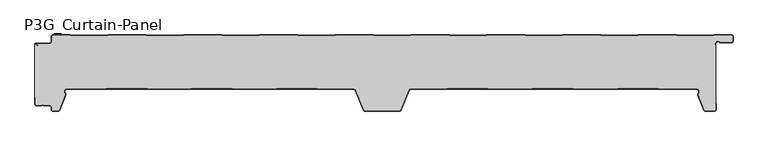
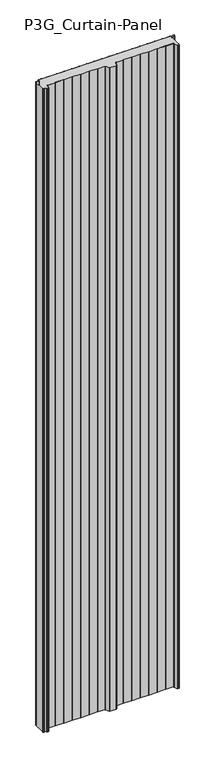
"""IFC4 building model written with IfcOpenShell, lengths in millimetres: plate geometry, P3G_Curtain-Panel : ACH_P3G_3-Rib-Roof-Panel_80M."""

import ifcopenshell
import ifcopenshell.guid

model = None  # the IFC model being written
_history = None  # IfcOwnerHistory: only IFC2X3 demands one
_inside = {}  # id of a spatial element -> (the spatial element, [elements in it])
_under = {}  # id of a project, library or spatial element -> (it, [spatial elements below it])
_declared = {}  # id of a project -> (the project, [libraries it declares])
_typed = {}  # id of a type object -> (the type object, [elements of that type])
_made_of = {}  # id of a material, layer set ... -> (it, [elements and type objects made of it])


def new_model(schema):
    """Start an empty IFC model of exactly this schema.

    Asked for "IFC4X3", IfcOpenShell would pick the latest addendum, in which some entities
    have other attributes; the version numbers below select the first issue.
    IFC2X3 requires an IfcOwnerHistory on every rooted entity: one is made here for all.
    """
    global model, _history
    if schema == "IFC4X3":
        model = ifcopenshell.file(schema_version=(4, 3, 0, 0))
    else:
        model = ifcopenshell.file(schema=schema)
    _inside.clear()
    _under.clear()
    _declared.clear()
    _typed.clear()
    _made_of.clear()
    _history = None
    if model.schema == "IFC2X3":
        org = make("IfcOrganization", Name="unknown")
        user = make(
            "IfcPersonAndOrganization",
            ThePerson=make("IfcPerson", FamilyName="unknown"),
            TheOrganization=org,
        )
        app = make(
            "IfcApplication",
            ApplicationDeveloper=org,
            Version="unknown",
            ApplicationFullName="unknown",
            ApplicationIdentifier="unknown",
        )
        _history = make(
            "IfcOwnerHistory",
            OwningUser=user,
            OwningApplication=app,
            ChangeAction="ADDED",
            CreationDate=0,
        )
    return model


def make(cls, **values):
    """One entity of the class cls with the attributes given. An attribute that is None is left unset."""
    return model.create_entity(
        cls, **{name: value for name, value in values.items() if value is not None}
    )


def rooted(cls, **values):
    """An entity with a GlobalId (a new one), such as an element, a storey or a relation."""
    return make(cls, GlobalId=ifcopenshell.guid.new(), OwnerHistory=_history, **values)


def si_unit(unit_type, name, prefix=None):
    """IfcSIUnit, for example si_unit("LENGTHUNIT", "METRE", prefix="MILLI")."""
    return make("IfcSIUnit", UnitType=unit_type, Prefix=prefix, Name=name)


def assignment(units):
    """IfcUnitAssignment: the units of a project."""
    return None if units is None else make("IfcUnitAssignment", Units=units)


def point(xyz):
    """IfcCartesianPoint."""
    return None if xyz is None else make("IfcCartesianPoint", Coordinates=xyz)


def direction(xyz):
    """IfcDirection."""
    return None if xyz is None else make("IfcDirection", DirectionRatios=xyz)


def frame(location, z_axis=None, x_axis=None):
    """IfcAxis2Placement3D, a coordinate frame: its origin and axes. An axis left out is left unset."""
    return make(
        "IfcAxis2Placement3D",
        Location=point(location),
        Axis=direction(z_axis),
        RefDirection=direction(x_axis),
    )


def frame_2d(location, x_axis=None):
    """IfcAxis2Placement2D, a coordinate frame in the plane: its origin and x axis."""
    return make(
        "IfcAxis2Placement2D", Location=point(location), RefDirection=direction(x_axis)
    )


def origin():
    """The frame at (0, 0, 0) with its axes left unset."""
    return frame((0.0, 0.0, 0.0))


def origin_with_axes():
    """The frame at (0, 0, 0) with the z axis (0, 0, 1) and the x axis (1, 0, 0) written out."""
    return frame((0.0, 0.0, 0.0), z_axis=(0.0, 0.0, 1.0), x_axis=(1.0, 0.0, 0.0))


def place(relative_to, where):
    """IfcLocalPlacement: puts the frame where relative to a parent placement (None: the world)."""
    return make(
        "IfcLocalPlacement", PlacementRelTo=relative_to, RelativePlacement=where
    )


def context(
    kind, dimensions, precision=None, world=None, true_north=None, identifier=None
):
    """IfcGeometricRepresentationContext, for example the 3D "Model" context."""
    return make(
        "IfcGeometricRepresentationContext",
        ContextIdentifier=identifier,
        ContextType=kind,
        CoordinateSpaceDimension=dimensions,
        Precision=precision,
        WorldCoordinateSystem=world,
        TrueNorth=true_north,
    )


def project(units=None, contexts=None):
    """IfcProject with its units and contexts."""
    return rooted(
        "IfcProject",
        Name="project",
        RepresentationContexts=contexts,
        UnitsInContext=assignment(units),
    )


def spatial(cls, under=None, at=None, **own):
    """A site, building, storey or space (cls), placed at a placement, below another one or the project."""
    s = rooted(cls, ObjectPlacement=at, **own)
    if under is not None:
        _under.setdefault(under.id(), (under, []))[1].append(s)
    return s


def polyline(points):
    """IfcPolyline through the points."""
    return make("IfcPolyline", Points=[point(p) for p in points])


def circle_curve(where, radius):
    """IfcCircle in the frame where."""
    return make("IfcCircle", Position=where, Radius=radius)


def trimmed(basis, trim1, trim2, sense, master):
    """IfcTrimmedCurve: the piece of a basis curve between two trims."""
    return make(
        "IfcTrimmedCurve",
        BasisCurve=basis,
        Trim1=trim1,
        Trim2=trim2,
        SenseAgreement=sense,
        MasterRepresentation=master,
    )


def segment(curve, same_sense, transition):
    """IfcCompositeCurveSegment."""
    return make(
        "IfcCompositeCurveSegment",
        Transition=transition,
        SameSense=same_sense,
        ParentCurve=curve,
    )


def composite_curve(segments, self_intersect=None):
    """IfcCompositeCurve: segments joined end to end."""
    return make("IfcCompositeCurve", Segments=segments, SelfIntersect=self_intersect)


def outline(outer, holes=None, kind="AREA"):
    """IfcArbitraryClosedProfileDef: a profile drawn as a closed curve; with holes, ...WithVoids."""
    if holes is None:
        return make("IfcArbitraryClosedProfileDef", ProfileType=kind, OuterCurve=outer)
    return make(
        "IfcArbitraryProfileDefWithVoids",
        ProfileType=kind,
        OuterCurve=outer,
        InnerCurves=holes,
    )


def extrude(swept, where, along, depth):
    """IfcExtrudedAreaSolid: the profile swept, set in the frame where, extruded along a direction by depth."""
    return make(
        "IfcExtrudedAreaSolid",
        SweptArea=swept,
        Position=where,
        ExtrudedDirection=direction(along),
        Depth=depth,
    )


def shape(context_of_items, identifier, shape_type, items):
    """IfcShapeRepresentation: the items that make up one representation, for example the "Body"."""
    return make(
        "IfcShapeRepresentation",
        ContextOfItems=context_of_items,
        RepresentationIdentifier=identifier,
        RepresentationType=shape_type,
        Items=items,
    )


def source(mapping_origin, context_of_items, identifier, shape_type, items):
    """IfcRepresentationMap: a shape defined once, which mapped items show again and again."""
    return make(
        "IfcRepresentationMap",
        MappingOrigin=mapping_origin,
        MappedRepresentation=shape(context_of_items, identifier, shape_type, items),
    )


def transform(
    local_origin,
    x_axis=None,
    y_axis=None,
    z_axis=None,
    scale=None,
    scale2=None,
    scale3=None,
    uniform=True,
):
    """IfcCartesianTransformationOperator3D, or its non-uniform kind. x_axis, y_axis, z_axis: its Axis1, 2, 3."""
    if uniform:
        return make(
            "IfcCartesianTransformationOperator3D",
            Axis1=direction(x_axis),
            Axis2=direction(y_axis),
            LocalOrigin=point(local_origin),
            Scale=scale,
            Axis3=direction(z_axis),
        )
    return make(
        "IfcCartesianTransformationOperator3DnonUniform",
        Axis1=direction(x_axis),
        Axis2=direction(y_axis),
        LocalOrigin=point(local_origin),
        Scale=scale,
        Axis3=direction(z_axis),
        Scale2=scale2,
        Scale3=scale3,
    )


def mapped(mapping_source, mapping_target):
    """IfcMappedItem: shows the shape of a source again, moved by a transform."""
    return make(
        "IfcMappedItem", MappingSource=mapping_source, MappingTarget=mapping_target
    )


def made_of(thing, what):
    """Note that an element or type object is made of a material, layer set ...; save() writes the relation."""
    if what is not None:
        _made_of.setdefault(what.id(), (what, []))[1].append(thing)
    return thing


def element(
    cls,
    number,
    at=None,
    inside=None,
    cuts=None,
    type_object=None,
    material=None,
    context=None,
    identifier="Body",
    shape_type=None,
    held_by="IfcProductDefinitionShape",
    body=None,
    shapes=None,
    **own,
):
    """One element of the class cls, such as IfcWall. Its Tag is "e" and its number.

    at: its placement. inside: the storey or other place that contains it. cuts: it is an
    opening in that element (IfcRelVoidsElement). A single representation is given by context,
    identifier, shape_type and body (its items); several are given by shapes. held_by: the class
    of the entity that holds the representations. save() writes the other relations.
    """
    e = rooted(cls, Tag="e%d" % number, ObjectPlacement=at, **own)
    if body is not None:
        shapes = [shape(context, identifier, shape_type, body)]
    if shapes is not None:
        e.Representation = make(held_by, Representations=shapes)
    if inside is not None:
        _inside.setdefault(inside.id(), (inside, []))[1].append(e)
    if cuts is not None:
        rooted(
            "IfcRelVoidsElement", RelatingBuildingElement=cuts, RelatedOpeningElement=e
        )
    if type_object is not None:
        _typed.setdefault(type_object.id(), (type_object, []))[1].append(e)
    return made_of(e, material)


def aggregate(whole, parts):
    """IfcRelAggregates: a whole, such as a stair, and the parts it consists of."""
    return rooted("IfcRelAggregates", RelatingObject=whole, RelatedObjects=parts)


def save(model, path):
    """Write the relations noted so far, then the file.

    IfcRelAggregates (storeys below a building ...), IfcRelContainedInSpatialStructure (elements
    in a storey), IfcRelDefinesByType, IfcRelAssociatesMaterial and IfcRelDeclares: one each for
    every whole, place, type object, material and project.
    """
    for whole, parts in _under.values():
        aggregate(whole, parts)
    for where, things in _inside.values():
        rooted(
            "IfcRelContainedInSpatialStructure",
            RelatedElements=things,
            RelatingStructure=where,
        )
    for kind, things in _typed.values():
        rooted("IfcRelDefinesByType", RelatedObjects=things, RelatingType=kind)
    for what, things in _made_of.values():
        rooted("IfcRelAssociatesMaterial", RelatedObjects=things, RelatingMaterial=what)
    for by, libraries in _declared.values():
        rooted("IfcRelDeclares", RelatingContext=by, RelatedDefinitions=libraries)
    model.write(path)


def p3g_curtain_panel_8e46e326(model_context):
    return source(origin(), model_context, "Body", "SweptSolid", [
        extrude(outline(composite_curve([segment(polyline([(-499.496875, -13.8660254), (-495.496875, -16.1754265), (-495.096875, -15.4826062), (-498.1272598, -13.7330127)]), True, "CONTINUOUS"), segment(trimmed(circle_curve(frame_2d((-497.8772598, -13.3)), 0.5), [point((-498.1272598, -13.7330127))], [point((-497.8772598, -12.8))], False, "CARTESIAN"), True, "CONTINUOUS"), segment(polyline([(-497.8772598, -12.8), (-477.996875, -12.8)]), True, "CONTINUOUS"), segment(trimmed(circle_curve(frame_2d((-477.996875, -10.0)), 2.8), [point((-477.996875, -12.8))], [point((-475.196875, -10.0))], True, "CARTESIAN"), True, "CONTINUOUS"), segment(polyline([(-475.196875, -10.0), (-475.196875, -2.5)]), True, "CONTINUOUS"), segment(trimmed(circle_curve(frame_2d((-473.496875, -2.5)), 1.7), [point((-475.196875, -2.5))], [point((-473.496875, -0.8))], False, "CARTESIAN"), True, "CONTINUOUS"), segment(polyline([(-473.496875, -0.8), (-448.4313592, -0.8), (-447.4338592, -1.4), (-393.4298908, -1.4), (-392.4323908, -0.8), (-337.3213592, -0.8), (-336.3238592, -1.4), (-282.3198908, -1.4), (-281.3223908, -0.8), (-226.2113592, -0.8), (-225.2138592, -1.4), (-171.2098908, -1.4), (-170.2123908, -0.8), (-115.1013592, -0.8), (-114.1038592, -1.4), (-60.0998908, -1.4), (-59.1023908, -0.8), (-3.9913592, -0.8), (-2.9938592, -1.4), (51.0101092, -1.4), (52.0076092, -0.8), (107.1186408, -0.8), (108.1161408, -1.4), (162.1201092, -1.4), (163.1176092, -0.8), (218.2286408, -0.8), (219.2261408, -1.4), (273.2301092, -1.4), (274.2276092, -0.8), (329.3386408, -0.8), (330.3361408, -1.4), (384.3401092, -1.4), (385.3376092, -0.8), (440.4486408, -0.8), (441.4461408, -1.4), (495.4501092, -1.4), (496.4476092, -0.8), (521.503125, -0.8)]), True, "CONTINUOUS"), segment(trimmed(circle_curve(frame_2d((521.503125, -2.5)), 1.7), [point((521.503125, -0.8))], [point((523.203125, -2.5))], False, "CARTESIAN"), True, "CONTINUOUS"), segment(polyline([(523.203125, -2.5), (523.203125, -9.0)]), True, "CONTINUOUS"), segment(trimmed(circle_curve(frame_2d((521.503125, -9.0)), 1.7), [point((523.203125, -9.0))], [point((521.503125, -10.7))], False, "CARTESIAN"), True, "CONTINUOUS"), segment(polyline([(521.503125, -10.7), (505.8568186, -10.7)]), True, "CONTINUOUS"), segment(trimmed(circle_curve(frame_2d((505.8568186, -9.0)), 1.7), [point((505.8568186, -10.7))], [point((504.7323743, -10.275))], False, "CARTESIAN"), True, "CONTINUOUS"), segment(trimmed(circle_curve(frame_2d((501.8881916, -13.5)), 4.3), [point((504.7323743, -10.275))], [point((497.8475134, -12.0293134))], True, "CARTESIAN"), True, "CONTINUOUS"), segment(polyline([(497.8475134, -12.0293134), (497.1006025, -14.0814342)]), True, "CONTINUOUS"), segment(trimmed(circle_curve(frame_2d((495.503125, -13.5)), 1.7), [point((497.1006025, -14.0814342))], [point((495.503125, -15.2))], False, "CARTESIAN"), True, "CONTINUOUS"), segment(polyline([(495.503125, -15.2), (490.503125, -15.2), (490.503125, -16.0), (495.503125, -16.0)]), True, "CONTINUOUS"), segment(trimmed(circle_curve(frame_2d((495.503125, -13.5)), 2.5), [point((495.503125, -16.0))], [point((497.8523566, -14.3550504))], True, "CARTESIAN"), True, "CONTINUOUS"), segment(polyline([(497.8523566, -14.3550504), (498.203125, -13.391322), (498.203125, -109.5)]), True, "CONTINUOUS"), segment(trimmed(circle_curve(frame_2d((496.503125, -109.5)), 1.7), [point((498.203125, -109.5))], [point((496.503125, -111.2))], False, "CARTESIAN"), True, "CONTINUOUS"), segment(polyline([(496.503125, -111.2), (483.6093963, -111.2)]), True, "CONTINUOUS"), segment(trimmed(circle_curve(frame_2d((483.6093963, -109.5)), 1.7), [point((483.6093963, -111.2))], [point((482.0331837, -110.1368312))], False, "CARTESIAN"), True, "CONTINUOUS"), segment(polyline([(482.0331837, -110.1368312), (473.0241766, -87.838756)]), True, "CONTINUOUS"), segment(trimmed(circle_curve(frame_2d((474.6003891, -87.2019248)), 1.7), [point((473.0241766, -87.838756))], [point((473.4430606, -85.9566976))], False, "CARTESIAN"), True, "CONTINUOUS"), segment(trimmed(circle_curve(frame_2d((470.7880129, -83.1)), 3.9), [point((473.4430606, -85.9566976))], [point((470.7880129, -79.2))], True, "CARTESIAN"), True, "CONTINUOUS"), segment(polyline([(470.7880129, -79.2), (415.2251881, -79.2), (414.2276881, -78.6), (354.7785619, -78.6), (353.7810619, -79.2), (290.2252392, -79.2), (289.2266715, -78.6), (229.7795785, -78.6), (228.7810108, -79.2), (165.225925, -79.2), (164.2273573, -78.6), (104.7788927, -78.6), (103.780325, -79.2), (50.7367047, -79.2)]), True, "CONTINUOUS"), segment(trimmed(circle_curve(frame_2d((50.7367047, -82.0)), 2.8), [point((50.7367047, -79.2))], [point((48.1405899, -80.9511015))], True, "CARTESIAN"), True, "CONTINUOUS"), segment(polyline([(48.1405899, -80.9511015), (36.4751274, -109.8241345)]), True, "CONTINUOUS"), segment(trimmed(circle_curve(frame_2d((34.4353229, -109.0)), 2.2), [point((36.4751274, -109.8241345))], [point((34.4353229, -111.2))], False, "CARTESIAN"), True, "CONTINUOUS"), segment(polyline([(34.4353229, -111.2), (-15.5090729, -111.2)]), True, "CONTINUOUS"), segment(trimmed(circle_curve(frame_2d((-15.5090729, -109.0)), 2.2), [point((-15.5090729, -111.2))], [point((-17.5488774, -109.8241345))], False, "CARTESIAN"), True, "CONTINUOUS"), segment(polyline([(-17.5488774, -109.8241345), (-29.2143399, -80.9511015)]), True, "CONTINUOUS"), segment(trimmed(circle_curve(frame_2d((-31.8104547, -82.0)), 2.8), [point((-29.2143399, -80.9511015))], [point((-31.8104547, -79.2))], True, "CARTESIAN"), True, "CONTINUOUS"), segment(polyline([(-31.8104547, -79.2), (-84.8548119, -79.2), (-85.8523119, -78.6), (-145.3014381, -78.6), (-146.2989381, -79.2), (-209.8548119, -79.2), (-210.8523119, -78.6), (-270.3014381, -78.6), (-271.2989381, -79.2), (-334.8548119, -79.2), (-335.8523119, -78.6), (-395.3011073, -78.6), (-396.299675, -79.2), (-453.2387629, -79.2)]), True, "CONTINUOUS"), segment(trimmed(circle_curve(frame_2d((-453.2387629, -83.1)), 3.9), [point((-453.2387629, -79.2))], [point((-455.8938106, -85.9566976))], True, "CARTESIAN"), True, "CONTINUOUS"), segment(trimmed(circle_curve(frame_2d((-457.0511391, -87.2019248)), 1.7), [point((-455.8938106, -85.9566976))], [point((-455.4749266, -87.838756))], False, "CARTESIAN"), True, "CONTINUOUS"), segment(polyline([(-455.4749266, -87.838756), (-464.4839337, -110.1368312)]), True, "CONTINUOUS"), segment(trimmed(circle_curve(frame_2d((-466.0601463, -109.5)), 1.7), [point((-464.4839337, -110.1368312))], [point((-466.0601463, -111.2))], False, "CARTESIAN"), True, "CONTINUOUS"), segment(polyline([(-466.0601463, -111.2), (-473.496875, -111.2)]), True, "CONTINUOUS"), segment(trimmed(circle_curve(frame_2d((-473.496875, -109.5)), 1.7), [point((-473.496875, -111.2))], [point((-475.196875, -109.5))], False, "CARTESIAN"), True, "CONTINUOUS"), segment(polyline([(-475.196875, -109.5), (-475.196875, -106.0)]), True, "CONTINUOUS"), segment(trimmed(circle_curve(frame_2d((-477.996875, -106.0)), 2.8), [point((-475.196875, -106.0))], [point((-477.996875, -103.2))], True, "CARTESIAN"), True, "CONTINUOUS"), segment(polyline([(-477.996875, -103.2), (-486.5995084, -103.2)]), True, "CONTINUOUS"), segment(trimmed(circle_curve(frame_2d((-488.496875, -104.5)), 2.3), [point((-486.5995084, -103.2))], [point((-490.3942416, -103.2))], True, "CARTESIAN"), True, "CONTINUOUS"), segment(polyline([(-490.3942416, -103.2), (-497.496875, -103.2)]), True, "CONTINUOUS"), segment(trimmed(circle_curve(frame_2d((-497.496875, -101.5)), 1.7), [point((-497.496875, -103.2))], [point((-499.196875, -101.5))], False, "CARTESIAN"), True, "CONTINUOUS"), segment(polyline([(-499.196875, -101.5), (-499.196875, -91.18), (-499.996875, -91.18), (-499.996875, -13.0)]), True, "CONTINUOUS"), segment(trimmed(circle_curve(frame_2d((-498.996875, -13.0)), 1.0), [point((-499.996875, -13.0))], [point((-499.496875, -13.8660254))], True, "CARTESIAN"), True, "CONTINUOUS")], self_intersect=False)), origin_with_axes(), (0.0, 0.0, 1.0), 5000.0),
        extrude(outline(composite_curve([segment(trimmed(circle_curve(frame_2d((-478.0, -10.0)), 2.0), [point((-478.0, -12.0))], [point((-476.0, -10.0))], True, "CARTESIAN"), True, "CONTINUOUS"), segment(polyline([(-476.0, -10.0), (-476.0, -2.5)]), True, "CONTINUOUS"), segment(trimmed(circle_curve(frame_2d((-473.5, -2.5)), 2.5), [point((-476.0, -2.5))], [point((-473.5, 0.0))], False, "CARTESIAN"), True, "CONTINUOUS"), segment(polyline([(-473.5, 0.0), (-448.2124211, 0.0), (-447.2149211, -0.6), (-393.6550789, -0.6), (-392.6575789, 0.0), (-337.1024211, 0.0), (-336.1049211, -0.6), (-282.5450789, -0.6), (-281.5475789, 0.0), (-225.9924211, 0.0), (-224.9949211, -0.6), (-171.4350789, -0.6), (-170.4375789, 0.0), (-114.8824211, 0.0), (-113.8849211, -0.6), (-60.3250789, -0.6), (-59.3275789, 0.0), (-3.7724211, 0.0), (-2.7749211, -0.6), (50.7849211, -0.6), (51.7824211, 0.0), (107.3375789, 0.0), (108.3350789, -0.6), (161.8949211, -0.6), (162.8924211, 0.0), (218.4475789, 0.0), (219.4450789, -0.6), (273.0049211, -0.6), (274.0024211, 0.0), (329.5575789, 0.0), (330.5550789, -0.6), (384.1149211, -0.6), (385.1124211, 0.0), (440.6675789, 0.0), (441.6650789, -0.6), (495.2249211, -0.6), (496.2224211, 0.0), (521.5, 0.0)]), True, "CONTINUOUS"), segment(trimmed(circle_curve(frame_2d((521.5, -2.5)), 2.5), [point((521.5, 0.0))], [point((524.0, -2.5))], False, "CARTESIAN"), True, "CONTINUOUS"), segment(polyline([(524.0, -2.5), (524.0, -9.0)]), True, "CONTINUOUS"), segment(trimmed(circle_curve(frame_2d((521.5, -9.0)), 2.5), [point((524.0, -9.0))], [point((521.5, -11.5))], False, "CARTESIAN"), True, "CONTINUOUS"), segment(polyline([(521.5, -11.5), (505.8536936, -11.5)]), True, "CONTINUOUS"), segment(trimmed(circle_curve(frame_2d((505.8536936, -9.0)), 2.5), [point((505.8536936, -11.5))], [point((504.200099, -10.875))], False, "CARTESIAN"), True, "CONTINUOUS"), segment(trimmed(circle_curve(frame_2d((501.8850666, -13.5)), 3.5), [point((504.200099, -10.875))], [point((498.5961425, -12.3029295))], True, "CARTESIAN"), True, "CONTINUOUS"), segment(polyline([(498.5961425, -12.3029295), (497.8492316, -14.3550504)]), True, "CONTINUOUS"), segment(trimmed(circle_curve(frame_2d((495.5, -13.5)), 2.5), [point((497.8492316, -14.3550504))], [point((495.5, -16.0))], False, "CARTESIAN"), True, "CONTINUOUS"), segment(polyline([(495.5, -16.0), (490.5, -16.0), (490.5, -15.2), (495.5, -15.2)]), True, "CONTINUOUS"), segment(trimmed(circle_curve(frame_2d((495.5, -13.5)), 1.7), [point((495.5, -15.2))], [point((497.0974775, -14.0814342))], True, "CARTESIAN"), True, "CONTINUOUS"), segment(polyline([(497.0974775, -14.0814342), (497.8443884, -12.0293134)]), True, "CONTINUOUS"), segment(trimmed(circle_curve(frame_2d((501.8850666, -13.5)), 4.3), [point((497.8443884, -12.0293134))], [point((504.7292493, -10.275))], False, "CARTESIAN"), True, "CONTINUOUS"), segment(trimmed(circle_curve(frame_2d((505.8536936, -9.0)), 1.7), [point((504.7292493, -10.275))], [point((505.8536936, -10.7))], True, "CARTESIAN"), True, "CONTINUOUS"), segment(polyline([(505.8536936, -10.7), (521.5, -10.7)]), True, "CONTINUOUS"), segment(trimmed(circle_curve(frame_2d((521.5, -9.0)), 1.7), [point((521.5, -10.7))], [point((523.2, -9.0))], True, "CARTESIAN"), True, "CONTINUOUS"), segment(polyline([(523.2, -9.0), (523.2, -2.5)]), True, "CONTINUOUS"), segment(trimmed(circle_curve(frame_2d((521.5, -2.5)), 1.7), [point((523.2, -2.5))], [point((521.5, -0.8))], True, "CARTESIAN"), True, "CONTINUOUS"), segment(polyline([(521.5, -0.8), (496.4444842, -0.8), (495.4469842, -1.4), (441.4430158, -1.4), (440.4455158, -0.8), (385.3344842, -0.8), (384.3369842, -1.4), (330.3330158, -1.4), (329.3355158, -0.8), (274.2244842, -0.8), (273.2269842, -1.4), (219.2230158, -1.4), (218.2255158, -0.8), (163.1144842, -0.8), (162.1169842, -1.4), (108.1130158, -1.4), (107.1155158, -0.8), (52.0044842, -0.8), (51.0069842, -1.4), (-2.9969842, -1.4), (-3.9944842, -0.8), (-59.1055158, -0.8), (-60.1030158, -1.4), (-114.1069842, -1.4), (-115.1044842, -0.8), (-170.2155158, -0.8), (-171.2130158, -1.4), (-225.2169842, -1.4), (-226.2144842, -0.8), (-281.3255158, -0.8), (-282.3230158, -1.4), (-336.3269842, -1.4), (-337.3244842, -0.8), (-392.4355158, -0.8), (-393.4330158, -1.4), (-447.4369842, -1.4), (-448.4344842, -0.8), (-473.5, -0.8)]), True, "CONTINUOUS"), segment(trimmed(circle_curve(frame_2d((-473.5, -2.5)), 1.7), [point((-473.5, -0.8))], [point((-475.2, -2.5))], True, "CARTESIAN"), True, "CONTINUOUS"), segment(polyline([(-475.2, -2.5), (-475.2, -10.0)]), True, "CONTINUOUS"), segment(trimmed(circle_curve(frame_2d((-478.0, -10.0)), 2.8), [point((-475.2, -10.0))], [point((-478.0, -12.8))], False, "CARTESIAN"), True, "CONTINUOUS"), segment(polyline([(-478.0, -12.8), (-497.8803848, -12.8)]), True, "CONTINUOUS"), segment(trimmed(circle_curve(frame_2d((-497.8803848, -13.3)), 0.5), [point((-497.8803848, -12.8))], [point((-498.1303848, -13.7330127))], True, "CARTESIAN"), True, "CONTINUOUS"), segment(polyline([(-498.1303848, -13.7330127), (-495.1, -15.4826062), (-495.5, -16.1754265), (-499.5, -13.8660254)]), True, "CONTINUOUS"), segment(trimmed(circle_curve(frame_2d((-499.0, -13.0)), 1.0), [point((-499.5, -13.8660254))], [point((-499.0, -12.0))], False, "CARTESIAN"), True, "CONTINUOUS"), segment(polyline([(-499.0, -12.0), (-478.0, -12.0)]), True, "CONTINUOUS")], self_intersect=False)), origin_with_axes(), (0.0, 0.0, 1.0), 5000.0),
        extrude(outline(composite_curve([segment(polyline([(-500.0, -101.5), (-500.0, -91.18), (-499.2, -91.18), (-499.2, -101.5)]), True, "CONTINUOUS"), segment(trimmed(circle_curve(frame_2d((-497.5, -101.5)), 1.7), [point((-499.2, -101.5))], [point((-497.5, -103.2))], True, "CARTESIAN"), True, "CONTINUOUS"), segment(polyline([(-497.5, -103.2), (-490.3973666, -103.2)]), True, "CONTINUOUS"), segment(trimmed(circle_curve(frame_2d((-488.5, -104.5)), 2.3), [point((-490.3973666, -103.2))], [point((-486.6026334, -103.2))], False, "CARTESIAN"), True, "CONTINUOUS"), segment(polyline([(-486.6026334, -103.2), (-478.0, -103.2)]), True, "CONTINUOUS"), segment(trimmed(circle_curve(frame_2d((-478.0, -106.0)), 2.8), [point((-478.0, -103.2))], [point((-475.2, -106.0))], False, "CARTESIAN"), True, "CONTINUOUS"), segment(polyline([(-475.2, -106.0), (-475.2, -109.5)]), True, "CONTINUOUS"), segment(trimmed(circle_curve(frame_2d((-473.5, -109.5)), 1.7), [point((-475.2, -109.5))], [point((-473.5, -111.2))], True, "CARTESIAN"), True, "CONTINUOUS"), segment(polyline([(-473.5, -111.2), (-466.0632713, -111.2)]), True, "CONTINUOUS"), segment(trimmed(circle_curve(frame_2d((-466.0632713, -109.5)), 1.7), [point((-466.0632713, -111.2))], [point((-464.4870587, -110.1368312))], True, "CARTESIAN"), True, "CONTINUOUS"), segment(polyline([(-464.4870587, -110.1368312), (-455.4780516, -87.838756)]), True, "CONTINUOUS"), segment(trimmed(circle_curve(frame_2d((-457.0542641, -87.2019248)), 1.7), [point((-455.4780516, -87.838756))], [point((-455.8969356, -85.9566976))], True, "CARTESIAN"), True, "CONTINUOUS"), segment(trimmed(circle_curve(frame_2d((-453.2418879, -83.1)), 3.9), [point((-455.8969356, -85.9566976))], [point((-453.2418879, -79.2))], False, "CARTESIAN"), True, "CONTINUOUS"), segment(polyline([(-453.2418879, -79.2), (-396.3028, -79.2), (-395.3042323, -78.6), (-335.8554369, -78.6), (-334.8579369, -79.2), (-271.3020631, -79.2), (-270.3045631, -78.6), (-210.8554369, -78.6), (-209.8579369, -79.2), (-146.3020631, -79.2), (-145.3045631, -78.6), (-85.8554369, -78.6), (-84.8579369, -79.2), (-31.8135797, -79.2)]), True, "CONTINUOUS"), segment(trimmed(circle_curve(frame_2d((-31.8135797, -82.0)), 2.8), [point((-31.8135797, -79.2))], [point((-29.2174649, -80.9511015))], False, "CARTESIAN"), True, "CONTINUOUS"), segment(polyline([(-29.2174649, -80.9511015), (-17.5520024, -109.8241345)]), True, "CONTINUOUS"), segment(trimmed(circle_curve(frame_2d((-15.5121979, -109.0)), 2.2), [point((-17.5520024, -109.8241345))], [point((-15.5121979, -111.2))], True, "CARTESIAN"), True, "CONTINUOUS"), segment(polyline([(-15.5121979, -111.2), (34.4321979, -111.2)]), True, "CONTINUOUS"), segment(trimmed(circle_curve(frame_2d((34.4321979, -109.0)), 2.2), [point((34.4321979, -111.2))], [point((36.4720024, -109.8241345))], True, "CARTESIAN"), True, "CONTINUOUS"), segment(polyline([(36.4720024, -109.8241345), (48.1374649, -80.9511015)]), True, "CONTINUOUS"), segment(trimmed(circle_curve(frame_2d((50.7335797, -82.0)), 2.8), [point((48.1374649, -80.9511015))], [point((50.7335797, -79.2))], False, "CARTESIAN"), True, "CONTINUOUS"), segment(polyline([(50.7335797, -79.2), (103.7772, -79.2), (104.7757677, -78.6), (164.2242323, -78.6), (165.2228, -79.2), (228.7778858, -79.2), (229.7764535, -78.6), (289.2235465, -78.6), (290.2221142, -79.2), (353.7779369, -79.2), (354.7754369, -78.6), (414.2245631, -78.6), (415.2220631, -79.2), (470.7848879, -79.2)]), True, "CONTINUOUS"), segment(trimmed(circle_curve(frame_2d((470.7848879, -83.1)), 3.9), [point((470.7848879, -79.2))], [point((473.4399356, -85.9566976))], False, "CARTESIAN"), True, "CONTINUOUS"), segment(trimmed(circle_curve(frame_2d((474.5972641, -87.2019248)), 1.7), [point((473.4399356, -85.9566976))], [point((473.0210516, -87.838756))], True, "CARTESIAN"), True, "CONTINUOUS"), segment(polyline([(473.0210516, -87.838756), (482.0300587, -110.1368312)]), True, "CONTINUOUS"), segment(trimmed(circle_curve(frame_2d((483.6062713, -109.5)), 1.7), [point((482.0300587, -110.1368312))], [point((483.6062713, -111.2))], True, "CARTESIAN"), True, "CONTINUOUS"), segment(polyline([(483.6062713, -111.2), (496.5, -111.2)]), True, "CONTINUOUS"), segment(trimmed(circle_curve(frame_2d((496.5, -109.5)), 1.7), [point((496.5, -111.2))], [point((498.2, -109.5))], True, "CARTESIAN"), True, "CONTINUOUS"), segment(polyline([(498.2, -109.5), (498.2, -101.0), (499.0, -101.0), (499.0, -109.5)]), True, "CONTINUOUS"), segment(trimmed(circle_curve(frame_2d((496.5, -109.5)), 2.5), [point((499.0, -109.5))], [point((496.5, -112.0))], False, "CARTESIAN"), True, "CONTINUOUS"), segment(polyline([(496.5, -112.0), (483.6062713, -112.0)]), True, "CONTINUOUS"), segment(trimmed(circle_curve(frame_2d((483.6062713, -109.5)), 2.5), [point((483.6062713, -112.0))], [point((481.2883117, -110.4365165))], False, "CARTESIAN"), True, "CONTINUOUS"), segment(polyline([(481.2883117, -110.4365165), (472.2793045, -88.1384413)]), True, "CONTINUOUS"), segment(trimmed(circle_curve(frame_2d((474.5972641, -87.2019248)), 2.5), [point((472.2793045, -88.1384413))], [point((472.8953104, -85.3707084))], False, "CARTESIAN"), True, "CONTINUOUS"), segment(trimmed(circle_curve(frame_2d((470.7848879, -83.1)), 3.1), [point((472.8953104, -85.3707084))], [point((470.7848879, -80.0))], True, "CARTESIAN"), True, "CONTINUOUS"), segment(polyline([(470.7848879, -80.0), (415.0, -80.0), (414.0025, -79.4), (354.9975, -79.4), (354.0, -80.0), (290.0002546, -80.0), (289.0016869, -79.4), (229.9983131, -79.4), (228.9997454, -80.0), (165.0009404, -80.0), (164.0023727, -79.4), (104.9976273, -79.4), (103.9990596, -80.0), (50.7335797, -80.0)]), True, "CONTINUOUS"), segment(trimmed(circle_curve(frame_2d((50.7335797, -82.0)), 2.0), [point((50.7335797, -80.0))], [point((48.879212, -81.2507868))], True, "CARTESIAN"), True, "CONTINUOUS"), segment(polyline([(48.879212, -81.2507868), (37.2137494, -110.1238198)]), True, "CONTINUOUS"), segment(trimmed(circle_curve(frame_2d((34.4321979, -109.0)), 3.0), [point((37.2137494, -110.1238198))], [point((34.4321979, -112.0))], False, "CARTESIAN"), True, "CONTINUOUS"), segment(polyline([(34.4321979, -112.0), (-15.5121979, -112.0)]), True, "CONTINUOUS"), segment(trimmed(circle_curve(frame_2d((-15.5121979, -109.0)), 3.0), [point((-15.5121979, -112.0))], [point((-18.2937494, -110.1238198))], False, "CARTESIAN"), True, "CONTINUOUS"), segment(polyline([(-18.2937494, -110.1238198), (-29.959212, -81.2507868)]), True, "CONTINUOUS"), segment(trimmed(circle_curve(frame_2d((-31.8135797, -82.0)), 2.0), [point((-29.959212, -81.2507868))], [point((-31.8135797, -80.0))], True, "CARTESIAN"), True, "CONTINUOUS"), segment(polyline([(-31.8135797, -80.0), (-85.08, -80.0), (-86.0775, -79.4), (-145.0825, -79.4), (-146.08, -80.0), (-210.08, -80.0), (-211.0775, -79.4), (-270.0825, -79.4), (-271.08, -80.0), (-335.08, -80.0), (-336.0775, -79.4), (-395.0823727, -79.4), (-396.0809404, -80.0), (-453.2418879, -80.0)]), True, "CONTINUOUS"), segment(trimmed(circle_curve(frame_2d((-453.2418879, -83.1)), 3.1), [point((-453.2418879, -80.0))], [point((-455.3523104, -85.3707084))], True, "CARTESIAN"), True, "CONTINUOUS"), segment(trimmed(circle_curve(frame_2d((-457.0542641, -87.2019248)), 2.5), [point((-455.3523104, -85.3707084))], [point((-454.7363045, -88.1384413))], False, "CARTESIAN"), True, "CONTINUOUS"), segment(polyline([(-454.7363045, -88.1384413), (-463.7453117, -110.4365165)]), True, "CONTINUOUS"), segment(trimmed(circle_curve(frame_2d((-466.0632713, -109.5)), 2.5), [point((-463.7453117, -110.4365165))], [point((-466.0632713, -112.0))], False, "CARTESIAN"), True, "CONTINUOUS"), segment(polyline([(-466.0632713, -112.0), (-473.5, -112.0)]), True, "CONTINUOUS"), segment(trimmed(circle_curve(frame_2d((-473.5, -109.5)), 2.5), [point((-473.5, -112.0))], [point((-476.0, -109.5))], False, "CARTESIAN"), True, "CONTINUOUS"), segment(polyline([(-476.0, -109.5), (-476.0, -106.0)]), True, "CONTINUOUS"), segment(trimmed(circle_curve(frame_2d((-478.0, -106.0)), 2.0), [point((-476.0, -106.0))], [point((-478.0, -104.0))], True, "CARTESIAN"), True, "CONTINUOUS"), segment(polyline([(-478.0, -104.0), (-486.263932, -104.0)]), True, "CONTINUOUS"), segment(trimmed(circle_curve(frame_2d((-486.263932, -102.5)), 1.5), [point((-486.263932, -104.0))], [point((-487.381966, -103.5))], False, "CARTESIAN"), True, "CONTINUOUS"), segment(trimmed(circle_curve(frame_2d((-488.5, -104.5)), 1.5), [point((-487.381966, -103.5))], [point((-489.618034, -103.5))], True, "CARTESIAN"), True, "CONTINUOUS"), segment(trimmed(circle_curve(frame_2d((-490.736068, -102.5)), 1.5), [point((-489.618034, -103.5))], [point((-490.736068, -104.0))], False, "CARTESIAN"), True, "CONTINUOUS"), segment(polyline([(-490.736068, -104.0), (-497.5, -104.0)]), True, "CONTINUOUS"), segment(trimmed(circle_curve(frame_2d((-497.5, -101.5)), 2.5), [point((-497.5, -104.0))], [point((-500.0, -101.5))], False, "CARTESIAN"), True, "CONTINUOUS")], self_intersect=False)), origin_with_axes(), (0.0, 0.0, 1.0), 5000.0),
    ])


if __name__ == "__main__":
    model = new_model("IFC4")
    model_context = context("Model", 3, world=origin())
    ifc_project = project(units=[si_unit("LENGTHUNIT", "METRE", prefix="MILLI")], contexts=[model_context])
    site = spatial("IfcSite", under=ifc_project)
    building = spatial("IfcBuilding", under=site)
    placement = place(None, origin())
    p3g_curtain_panel_shape = p3g_curtain_panel_8e46e326(model_context)
    element("IfcPlate", 1, ObjectType="P3G_Curtain-Panel : ACH_P3G_3-Rib-Roof-Panel_80M", at=placement, inside=building, context=model_context, shape_type="MappedRepresentation", body=[
        mapped(p3g_curtain_panel_shape, transform((0.0, 0.0, 0.0), x_axis=(1.0, 0.0, 0.0), y_axis=(0.0, 1.0, 0.0), z_axis=(0.0, 0.0, 1.0))),
    ])
    save(model, "model.ifc")
